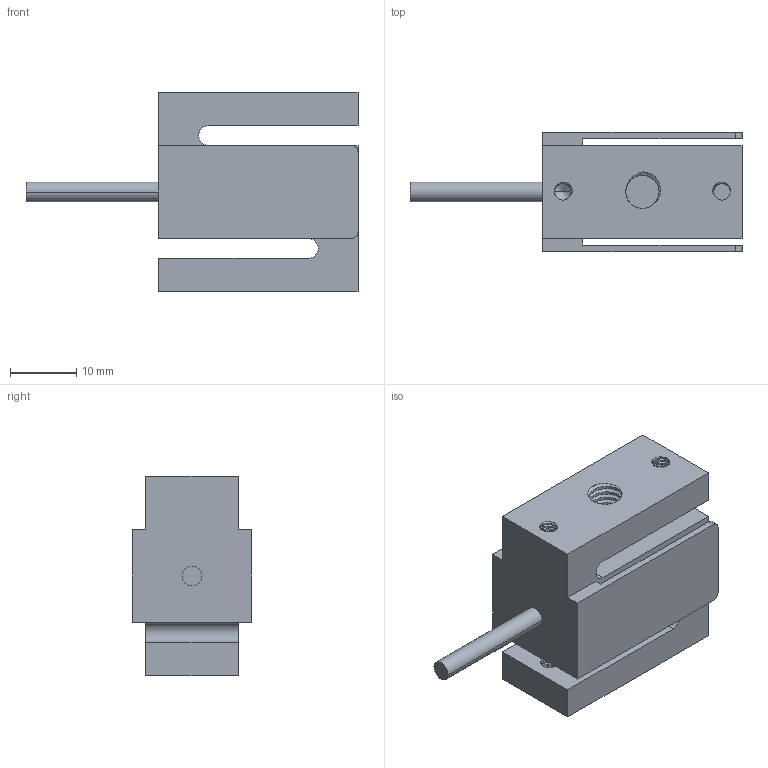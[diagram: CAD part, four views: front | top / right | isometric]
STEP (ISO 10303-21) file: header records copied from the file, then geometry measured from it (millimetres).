
FILE_DESCRIPTION((''),'2;1');
FILE_NAME('2W_50KG_WXT','2022-05-26T',('hzcgq'),(''),'PRO/ENGINEER BY PARAMETRIC TECHNOLOGY CORPORATION, 2015070','PRO/ENGINEER BY PARAMETRIC TECHNOLOGY CORPORATION, 2015070','');
FILE_SCHEMA(('CONFIG_CONTROL_DESIGN'));
Length unit declared in the file: millimetre
Products named in the file (1): 2W_50KG_WXT
Bounding box: 50 x 18 x 30 mm (x, y, z)
Volume: 11417 mm3; surface area: 6725.7 mm2
Topology: 1 solids, 1 shells, 171 faces, 464 edges, 294 vertices
Faces by surface type: cylinder 108, bspline 32, plane 27, cone 4
Entity records: 13216 total; most frequent: CARTESIAN_POINT 9417, ORIENTED_EDGE 920, DIRECTION 542, EDGE_CURVE 460, VERTEX_POINT 294, B_SPLINE_CURVE_WITH_KNOTS 228, VECTOR 200, LINE 200
